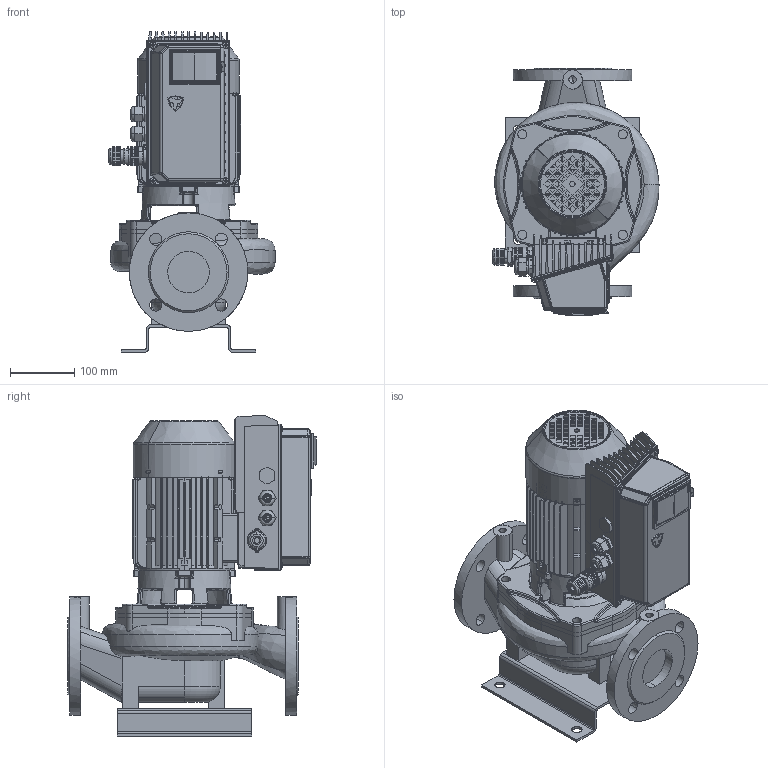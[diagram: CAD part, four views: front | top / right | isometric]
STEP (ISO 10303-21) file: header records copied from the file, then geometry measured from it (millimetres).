
FILE_DESCRIPTION(('STEP AP214'),'1');
FILE_NAME('export.stp','2018-05-31T11:45:25',(' '),(' '),'Spatial InterOp 3D',' ',' ');
FILE_SCHEMA(('AUTOMOTIVE_DESIGN { 1 0 10303 214 1 1 1 1 }'));
Length unit declared in the file: millimetre
Products named in the file (38): W_ALP10664; V_JALKA35973; V_PPAL10651066; V_TLL65AB80A1102; W_ALP10664SC750KP; 160022; 160003; V_MKP80-2-F19_SC; 480032; 480031___; 480034; 480033___; 160133; P100518; P100576; P100453; P100467; DIN_7985-M5x12; P100515; P100512; P100513; P100514; P100509; ontto_sylinteri; DIN_7985-M3x12; P100569; P100567; P100566; P100565; P100606; P100607; P100580; P101504; P101332; PART3; PART4
Assembly tree (42 placements, depth 5):
  W_ALP10664SC750KP
    W_ALP10664
      V_JALKA35973
      V_PPAL10651066
      V_TLL65AB80A1102
    V_MKP80-2-F19_SC
      160022
        160003
      480032
        480031___
      480034
        480033___
      160133
      P100518
        P100576
        P100453
        P100467
        DIN_7985-M5x12  x4
        P100515
          P100512
          P100513
          P100514
          P100509
          ontto_sylinteri
        DIN_7985-M3x12  x2
        P100569
        P100567
          P100566
          P100565
          ontto_sylinteri
        P100606
          P100607
          P100565
          ontto_sylinteri
        P100580
        P101504
        P101332
          PART3
          PART4
Bounding box: 259.34 x 387.54 x 500.28 mm (x, y, z)
Volume: 6929076 mm3; surface area: 1511276.4 mm2
Topology: 31 solids, 32 shells, 4403 faces, 11577 edges, 7262 vertices
Faces by surface type: plane 1797, cylinder 1459, torus 417, bspline 353, cone 225, sphere 152
Entity records: 183494 total; most frequent: CARTESIAN_POINT 51683, ORIENTED_EDGE 22401, DIRECTION 21890, EDGE_CURVE 11203, AXIS2_PLACEMENT_3D 8272, VERTEX_POINT 7088, LINE 5346, VECTOR 5346
